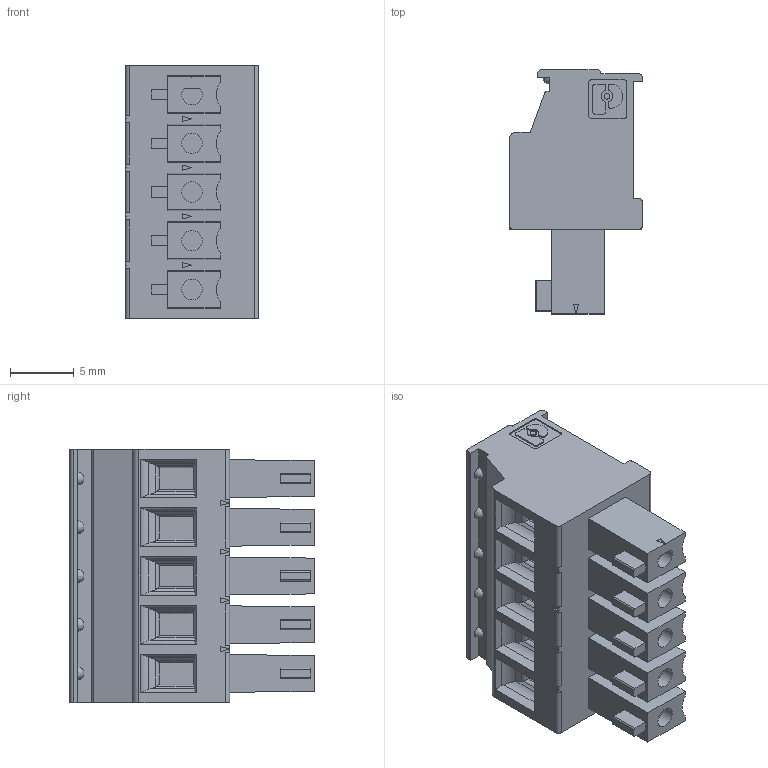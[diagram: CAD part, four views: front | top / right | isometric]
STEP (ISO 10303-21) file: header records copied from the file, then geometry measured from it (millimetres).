
FILE_DESCRIPTION (( 'STEP AP214' ), '1' );
FILE_NAME ('EWC-0002Z.STEP', '2016-01-04T17:38:35', ( 'Daryl' ), ( 'Microsoft' ), 'SwSTEP 2.0', 'SolidWorks 2014', '' );
FILE_SCHEMA (( 'AUTOMOTIVE_DESIGN' ));
Length unit declared in the file: millimetre
Products named in the file (1): EWC-0002Z
Bounding box: 10.4 x 19.1 x 19.84 mm (x, y, z)
Surface area: 1890.6 mm2 (no closed solid volume)
Topology: 0 solids, 16 shells, 286 faces, 803 edges, 551 vertices
Faces by surface type: plane 196, cylinder 85, bspline 5
Full cylindrical faces by diameter (mm): 0.457 x1, 1.6 x4, 2.9 x5
Entity records: 12469 total; most frequent: CARTESIAN_POINT 2021, ORIENTED_EDGE 1491, DIRECTION 1447, EDGE_CURVE 788, LINE 553, VECTOR 553, VERTEX_POINT 551, AXIS2_PLACEMENT_3D 447
